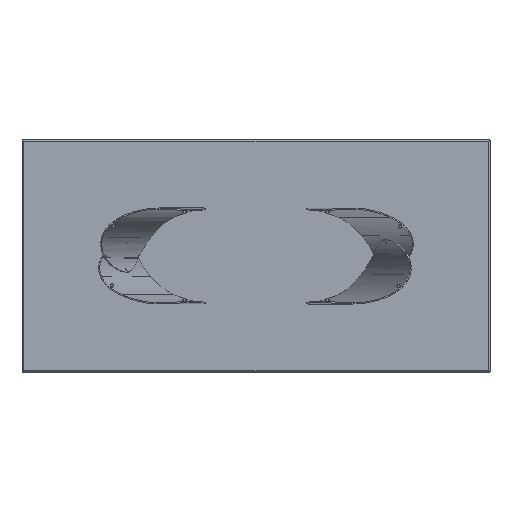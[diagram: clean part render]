
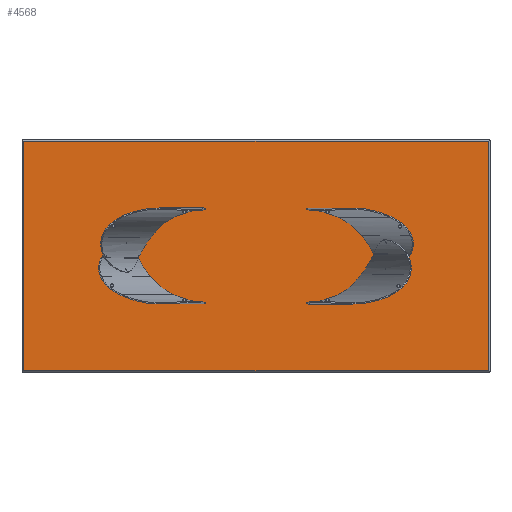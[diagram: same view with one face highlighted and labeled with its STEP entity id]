
A CAD part, front view. The second image highlights one B-rep face of the part: STEP entity #4568.
In plain terms, the highlighted planar face has unit normal (0, -1, 0).
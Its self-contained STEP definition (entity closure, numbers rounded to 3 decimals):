
#196 = LINE ( 'NONE', #10217, #8577 ) ;
#299 = DIRECTION ( 'NONE',  ( 0., 1., 0. ) ) ;
#364 = DIRECTION ( 'NONE',  ( 0., 0., 1. ) ) ;
#507 = AXIS2_PLACEMENT_3D ( 'NONE', #5012, #299, #364 ) ;
#743 = VECTOR ( 'NONE', #1517, 1000. ) ;
#944 = VERTEX_POINT ( 'NONE', #2472 ) ;
#1147 = VECTOR ( 'NONE', #5405, 1000. ) ;
#1484 = ORIENTED_EDGE ( 'NONE', *, *, #10670, .T. ) ;
#1517 = DIRECTION ( 'NONE',  ( 1., 0., 0. ) ) ;
#2200 = VERTEX_POINT ( 'NONE', #2238 ) ;
#2238 = CARTESIAN_POINT ( 'NONE',  ( 1187., 0., -587. ) ) ;
#2472 = CARTESIAN_POINT ( 'NONE',  ( 1187., 0., 587. ) ) ;
#3305 = ORIENTED_EDGE ( 'NONE', *, *, #9061, .T. ) ;
#3372 = LINE ( 'NONE', #10368, #743 ) ;
#4433 = LINE ( 'NONE', #10259, #1147 ) ;
#4568 = ADVANCED_FACE ( 'NONE', ( #7074 ), #6110, .F. ) ;
#4747 = VECTOR ( 'NONE', #7143, 1000. ) ;
#4929 = CARTESIAN_POINT ( 'NONE',  ( -1187., 0., 587. ) ) ;
#5012 = CARTESIAN_POINT ( 'NONE',  ( 0., 0., 0. ) ) ;
#5200 = CARTESIAN_POINT ( 'NONE',  ( 1187., 0., 0. ) ) ;
#5405 = DIRECTION ( 'NONE',  ( -1., 0., 0. ) ) ;
#5833 = VERTEX_POINT ( 'NONE', #6970 ) ;
#6110 = PLANE ( 'NONE',  #507 ) ;
#6970 = CARTESIAN_POINT ( 'NONE',  ( -1187., 0., -587. ) ) ;
#7074 = FACE_OUTER_BOUND ( 'NONE', #12225, .T. ) ;
#7143 = DIRECTION ( 'NONE',  ( 0., 0., 1. ) ) ;
#7440 = EDGE_CURVE ( 'NONE', #12583, #5833, #196, .T. ) ;
#8084 = DIRECTION ( 'NONE',  ( 0., 0., -1. ) ) ;
#8111 = ORIENTED_EDGE ( 'NONE', *, *, #7440, .T. ) ;
#8318 = LINE ( 'NONE', #5200, #4747 ) ;
#8577 = VECTOR ( 'NONE', #8084, 1000. ) ;
#9061 = EDGE_CURVE ( 'NONE', #5833, #2200, #3372, .T. ) ;
#10217 = CARTESIAN_POINT ( 'NONE',  ( -1187., 0., 0. ) ) ;
#10259 = CARTESIAN_POINT ( 'NONE',  ( 0., 0., 587. ) ) ;
#10368 = CARTESIAN_POINT ( 'NONE',  ( 0., 0., -587. ) ) ;
#10670 = EDGE_CURVE ( 'NONE', #944, #12583, #4433, .T. ) ;
#11118 = ORIENTED_EDGE ( 'NONE', *, *, #12157, .T. ) ;
#12157 = EDGE_CURVE ( 'NONE', #2200, #944, #8318, .T. ) ;
#12225 = EDGE_LOOP ( 'NONE', ( #11118, #1484, #8111, #3305 ) ) ;
#12583 = VERTEX_POINT ( 'NONE', #4929 ) ;
